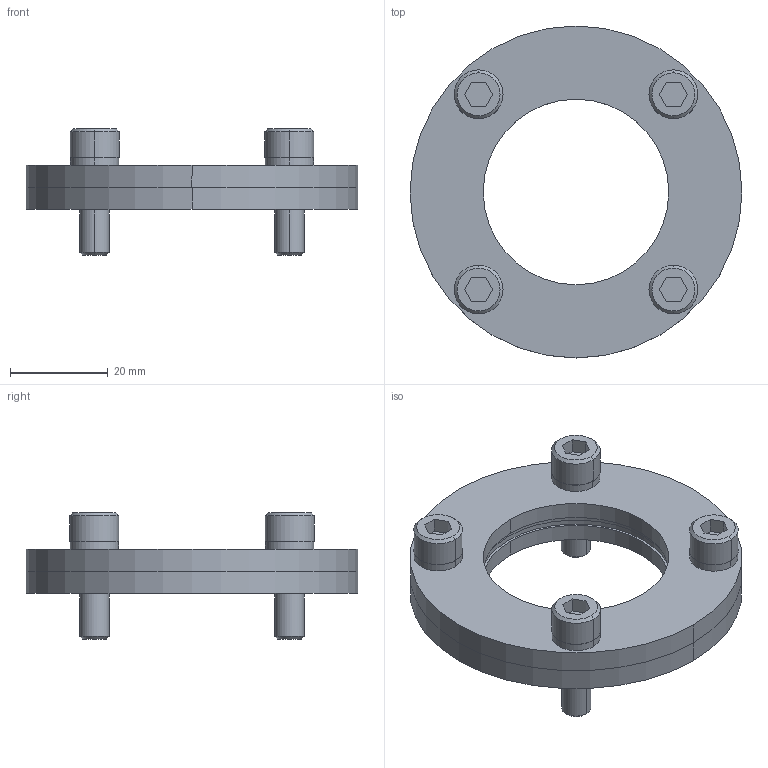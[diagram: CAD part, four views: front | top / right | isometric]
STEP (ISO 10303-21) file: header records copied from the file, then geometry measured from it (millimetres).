
FILE_DESCRIPTION(/* description */ (''),/* implementation_level */ '2;1');
FILE_NAME(/* name */ '3d_kf38_04243_r00.stp',/* time_stamp */ '2011-01-10T14:14:23+09:00',/* author */ ('MISUMI'),/* organization */ (''),/* preprocessor_version */ 'ST-DEVELOPER v11',/* originating_system */ 'UGS - NX 5.0',/* authorisation */ '');
FILE_SCHEMA (('CONFIG_CONTROL_DESIGN'));
Length unit declared in the file: millimetre
Products named in the file (1): 3d_kf38_04243_r00
Bounding box: 68 x 68 x 25.9 mm (x, y, z)
Volume: 25098.6 mm3; surface area: 16884.4 mm2
Topology: 10 solids, 10 shells, 130 faces, 284 edges, 184 vertices
Faces by surface type: cylinder 60, plane 54, cone 16
Entity records: 3720 total; most frequent: DIRECTION 682, CARTESIAN_POINT 599, ORIENTED_EDGE 568, EDGE_CURVE 284, AXIS2_PLACEMENT_3D 267, VERTEX_POINT 184, EDGE_LOOP 168, LINE 148
